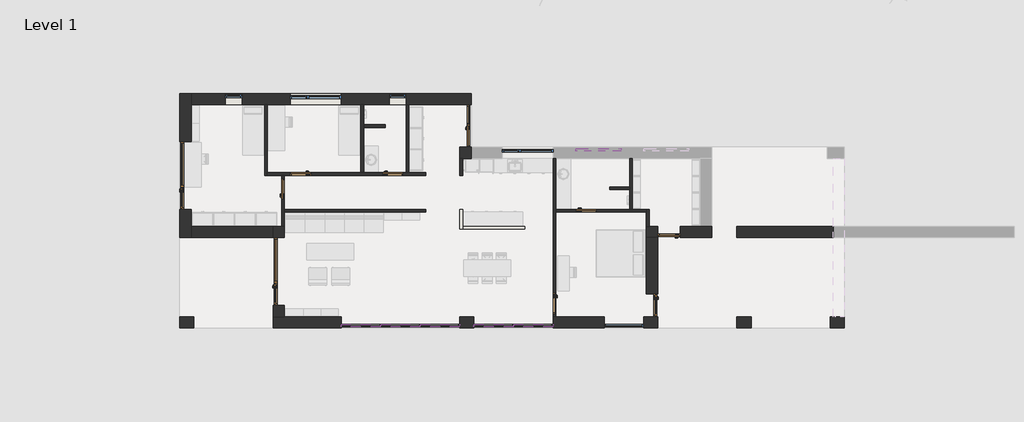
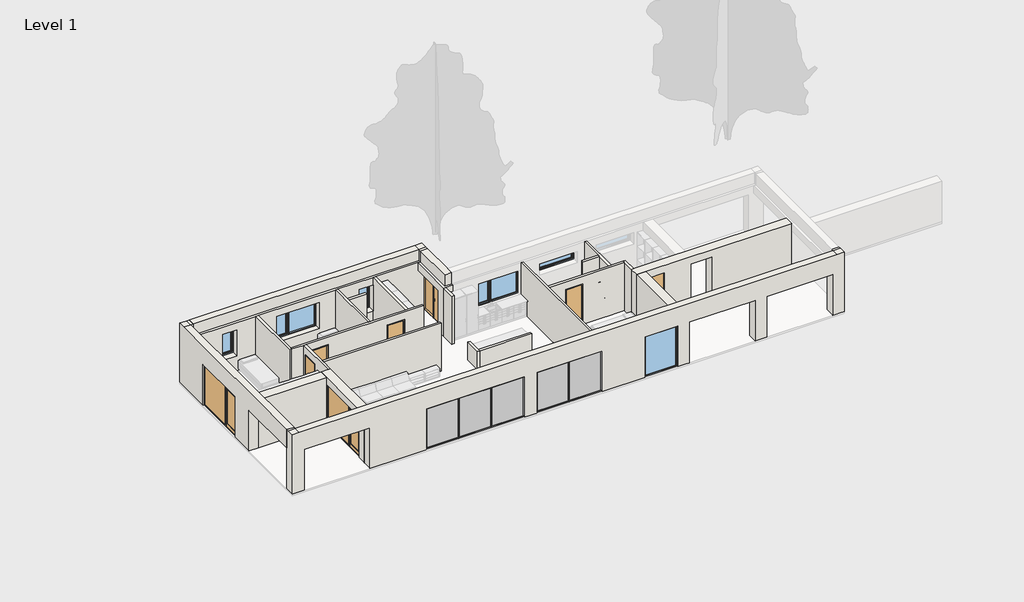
# One storey, part 1 of 2: 23 walls, 17 members, 10 doors, 6 windows, 5 plates.
"""IFC4 building model written with IfcOpenShell, lengths in millimetres."""

from ifc_helpers import new_model, si_unit, origin, origin_with_axes, place, context, project, spatial, polyline, outline, extrude, faceted_brep, transform, mapped, element, save
from components import door_1800x2200_mm_7a9b0269, ext_door_window_assembly_glass_2880x2200_mm_ebeafb6b, ext_single_flush_out_glass_960x2200_mm_f4f0ea2b, ext_single_flush1_960x2200_mm_7c25dc53, int_single_flush1_900x2200_mm_083ae047, int_single_flush1_900x2200_mm_924e3177, rectangular_mullion_exterior_50x115mm_b31c03e9, rectangular_mullion_exterior_50x115mm_eaa21abb, rectangular_mullion_exterior_50x115mm_593a1a29, system_panel_exterior_glass_22mm_baca3ab9, system_panel_exterior_glass_22mm_266c4f93, fixed_1680x2200_mm_e3bfc0e5, single_light_top_hinged_1920x600_dd11e4f9, single_light_720x1400_mm_50d61ae6, window_assembly_individual_2160x1400_mm_6f070fa8

model = new_model("IFC4")

# Units and contexts
model_context = context("Model", 3, world=origin())
ifc_project = project(units=[si_unit("LENGTHUNIT", "METRE", prefix="MILLI")], contexts=[model_context])

# Site, building, storey
site = spatial("IfcSite", under=ifc_project)
building = spatial("IfcBuilding", under=site)
storey = spatial("IfcBuildingStorey", under=building, Name="Level 1", Elevation=0.0)

# Doors
placement = place(None, origin())
door_1800x2200_mm_shape = door_1800x2200_mm_7a9b0269(model_context)
element("IfcDoor", 1, ObjectType="Ext. Door inw. Window Assembly : 1800x2200 mm", at=placement, inside=storey, context=model_context, shape_type="MappedRepresentation", body=[
    mapped(door_1800x2200_mm_shape, transform((12120.0, 8580.0, 0.0), x_axis=(0.0, -1.0, 0.0), y_axis=(1.0, 0.0, 0.0), z_axis=(0.0, 0.0, 1.0))),
])
ext_door_window_assembly_glass_2880x2200_mm_shape = ext_door_window_assembly_glass_2880x2200_mm_ebeafb6b(model_context)
element("IfcDoor", 2, ObjectType="Ext. Door Window Assembly - Glass : 2880x2200 mm", at=placement, inside=storey, context=model_context, shape_type="MappedRepresentation", body=[
    mapped(ext_door_window_assembly_glass_2880x2200_mm_shape, transform((4200.0, 2400.0, 0.0), x_axis=(0.0, -1.0, 0.0), y_axis=(1.0, 0.0, 0.0), z_axis=(0.0, 0.0, 1.0))),
])
element("IfcDoor", 3, ObjectType="Ext. Door Window Assembly - Glass : 2880x2200 mm", at=placement, inside=storey, context=model_context, shape_type="MappedRepresentation", body=[
    mapped(ext_door_window_assembly_glass_2880x2200_mm_shape, transform((240.0, 6480.0, 0.0), x_axis=(0.0, -1.0, 0.0), y_axis=(1.0, 0.0, 0.0), z_axis=(0.0, 0.0, 1.0))),
])
ext_single_flush_out_glass_960x2200_mm_shape = ext_single_flush_out_glass_960x2200_mm_f4f0ea2b(model_context)
element("IfcDoor", 4, ObjectType="Ext. Single-Flush out - Glass : 960x2200 mm", at=placement, inside=storey, context=model_context, shape_type="MappedRepresentation", body=[
    mapped(ext_single_flush_out_glass_960x2200_mm_shape, transform((20040.0, 960.0, 0.0), x_axis=(0.0, -1.0, 0.0), y_axis=(1.0, 0.0, 0.0), z_axis=(0.0, 0.0, 1.0))),
])
ext_single_flush1_960x2200_mm_shape = ext_single_flush1_960x2200_mm_7c25dc53(model_context)
element("IfcDoor", 5, ObjectType="Ext. Single-Flush1 : 960x2200 mm", at=placement, inside=storey, context=model_context, shape_type="MappedRepresentation", body=[
    mapped(ext_single_flush1_960x2200_mm_shape, transform((20760.0, 4080.0, 0.0), x_axis=(-1.0, 0.0, 0.0), y_axis=(0.0, -1.0, 0.0), z_axis=(0.0, 0.0, 1.0))),
])
int_single_flush1_900x2200_mm_shape = int_single_flush1_900x2200_mm_083ae047(model_context)
element("IfcDoor", 6, ObjectType="Int. Single-Flush1 : 900x2200 mm", at=placement, inside=storey, context=model_context, shape_type="MappedRepresentation", body=[
    mapped(int_single_flush1_900x2200_mm_shape, transform((4380.0, 5910.0, 0.0), x_axis=(0.0, 1.0, 0.0), y_axis=(-1.0, 0.0, 0.0), z_axis=(0.0, 0.0, 1.0))),
])
element("IfcDoor", 7, ObjectType="Int. Single-Flush1 : 900x2200 mm", at=placement, inside=storey, context=model_context, shape_type="MappedRepresentation", body=[
    mapped(int_single_flush1_900x2200_mm_shape, transform((9030.0, 6540.0, 0.0), x_axis=(1.0, 0.0, 0.0), y_axis=(0.0, 1.0, 0.0), z_axis=(0.0, 0.0, 1.0))),
])
element("IfcDoor", 8, ObjectType="Int. Single-Flush1 : 900x2200 mm", at=placement, inside=storey, context=model_context, shape_type="MappedRepresentation", body=[
    mapped(int_single_flush1_900x2200_mm_shape, transform((17250.0, 4980.0, 0.0), x_axis=(1.0, 0.0, 0.0), y_axis=(0.0, 1.0, 0.0), z_axis=(0.0, 0.0, 1.0))),
])
element("IfcDoor", 9, ObjectType="Int. Single-Flush1 : 900x2200 mm", at=placement, inside=storey, context=model_context, shape_type="MappedRepresentation", body=[
    mapped(int_single_flush1_900x2200_mm_shape, transform((15900.0, 1050.0, 0.0), x_axis=(0.0, -1.0, 0.0), y_axis=(1.0, 0.0, 0.0), z_axis=(0.0, 0.0, 1.0))),
])
int_single_flush1_900x2200_mm_2_shape = int_single_flush1_900x2200_mm_924e3177(model_context)
element("IfcDoor", 10, ObjectType="Int. Single-Flush1 : 900x2200 mm", at=placement, inside=storey, context=model_context, shape_type="MappedRepresentation", body=[
    mapped(int_single_flush1_900x2200_mm_2_shape, transform((5130.0, 6540.0, 0.0), x_axis=(-1.0, 0.0, 0.0), y_axis=(0.0, -1.0, 0.0), z_axis=(0.0, 0.0, 1.0))),
])

# Members
rectangular_mullion_exterior_50x115mm_shape = rectangular_mullion_exterior_50x115mm_b31c03e9(model_context)
element("IfcMember", 11, ObjectType="Rectangular Mullion : Exterior - 50x115mm", at=placement, inside=storey, context=model_context, shape_type="MappedRepresentation", body=[
    mapped(rectangular_mullion_exterior_50x115mm_shape, transform((6840.0, 50.0, 2200.0), x_axis=(0.0, 0.0, 1.0), y_axis=(0.0, 1.0, 0.0), z_axis=(-1.0, 0.0, 0.0))),
])
element("IfcMember", 12, ObjectType="Rectangular Mullion : Exterior - 50x115mm", at=placement, inside=storey, context=model_context, shape_type="MappedRepresentation", body=[
    mapped(rectangular_mullion_exterior_50x115mm_shape, transform((12480.0, 50.0, 2200.0), x_axis=(0.0, 0.0, 1.0), y_axis=(0.0, 1.0, 0.0), z_axis=(-1.0, 0.0, 0.0))),
])
element("IfcMember", 13, ObjectType="Rectangular Mullion : Exterior - 50x115mm", at=placement, inside=storey, context=model_context, shape_type="MappedRepresentation", body=[
    mapped(rectangular_mullion_exterior_50x115mm_shape, transform((11880.0, 50.0, 0.0), x_axis=(0.0, 0.0, -1.0), y_axis=(0.0, 1.0, 0.0), z_axis=(1.0, 0.0, 0.0))),
])
element("IfcMember", 14, ObjectType="Rectangular Mullion : Exterior - 50x115mm", at=placement, inside=storey, context=model_context, shape_type="MappedRepresentation", body=[
    mapped(rectangular_mullion_exterior_50x115mm_shape, transform((15840.0, 50.0, 0.0), x_axis=(0.0, 0.0, -1.0), y_axis=(0.0, 1.0, 0.0), z_axis=(1.0, 0.0, 0.0))),
])
rectangular_mullion_exterior_50x115mm_2_shape = rectangular_mullion_exterior_50x115mm_eaa21abb(model_context)
element("IfcMember", 15, ObjectType="Rectangular Mullion : Exterior - 50x115mm", at=placement, inside=storey, context=model_context, shape_type="MappedRepresentation", body=[
    mapped(rectangular_mullion_exterior_50x115mm_2_shape, transform((8520.0, 50.0, 50.0), x_axis=(-1.0, 0.0, 0.0), y_axis=(0.0, 1.0, 0.0), z_axis=(0.0, 0.0, -1.0))),
])
element("IfcMember", 16, ObjectType="Rectangular Mullion : Exterior - 50x115mm", at=placement, inside=storey, context=model_context, shape_type="MappedRepresentation", body=[
    mapped(rectangular_mullion_exterior_50x115mm_2_shape, transform((10200.0, 50.0, 50.0), x_axis=(-1.0, 0.0, 0.0), y_axis=(0.0, 1.0, 0.0), z_axis=(0.0, 0.0, -1.0))),
])
element("IfcMember", 17, ObjectType="Rectangular Mullion : Exterior - 50x115mm", at=placement, inside=storey, context=model_context, shape_type="MappedRepresentation", body=[
    mapped(rectangular_mullion_exterior_50x115mm_2_shape, transform((14160.0, 50.0, 50.0), x_axis=(-1.0, 0.0, 0.0), y_axis=(0.0, 1.0, 0.0), z_axis=(0.0, 0.0, -1.0))),
])
element("IfcMember", 18, ObjectType="Rectangular Mullion : Exterior - 50x115mm", at=placement, inside=storey, context=model_context, shape_type="MappedRepresentation", body=[
    mapped(rectangular_mullion_exterior_50x115mm_shape, transform((8520.0, 50.0, 0.0), x_axis=(0.0, 0.0, -1.0), y_axis=(0.0, 1.0, 0.0), z_axis=(1.0, 0.0, 0.0))),
])
element("IfcMember", 19, ObjectType="Rectangular Mullion : Exterior - 50x115mm", at=placement, inside=storey, context=model_context, shape_type="MappedRepresentation", body=[
    mapped(rectangular_mullion_exterior_50x115mm_shape, transform((14160.0, 50.0, 0.0), x_axis=(0.0, 0.0, -1.0), y_axis=(0.0, 1.0, 0.0), z_axis=(1.0, 0.0, 0.0))),
])
element("IfcMember", 20, ObjectType="Rectangular Mullion : Exterior - 50x115mm", at=placement, inside=storey, context=model_context, shape_type="MappedRepresentation", body=[
    mapped(rectangular_mullion_exterior_50x115mm_shape, transform((10200.0, 50.0, 0.0), x_axis=(0.0, 0.0, -1.0), y_axis=(0.0, 1.0, 0.0), z_axis=(1.0, 0.0, 0.0))),
])
element("IfcMember", 21, ObjectType="Rectangular Mullion : Exterior - 50x115mm", at=placement, inside=storey, context=model_context, shape_type="MappedRepresentation", body=[
    mapped(rectangular_mullion_exterior_50x115mm_shape, transform((8520.0, 50.0, 2200.0), x_axis=(0.0, 0.0, 1.0), y_axis=(0.0, 1.0, 0.0), z_axis=(-1.0, 0.0, 0.0))),
])
element("IfcMember", 22, ObjectType="Rectangular Mullion : Exterior - 50x115mm", at=placement, inside=storey, context=model_context, shape_type="MappedRepresentation", body=[
    mapped(rectangular_mullion_exterior_50x115mm_shape, transform((10200.0, 50.0, 2200.0), x_axis=(0.0, 0.0, 1.0), y_axis=(0.0, 1.0, 0.0), z_axis=(-1.0, 0.0, 0.0))),
])
element("IfcMember", 23, ObjectType="Rectangular Mullion : Exterior - 50x115mm", at=placement, inside=storey, context=model_context, shape_type="MappedRepresentation", body=[
    mapped(rectangular_mullion_exterior_50x115mm_shape, transform((14160.0, 50.0, 2200.0), x_axis=(0.0, 0.0, 1.0), y_axis=(0.0, 1.0, 0.0), z_axis=(-1.0, 0.0, 0.0))),
])
rectangular_mullion_exterior_50x115mm_3_shape = rectangular_mullion_exterior_50x115mm_593a1a29(model_context)
element("IfcMember", 24, ObjectType="Rectangular Mullion : Exterior - 50x115mm", at=placement, inside=storey, context=model_context, shape_type="MappedRepresentation", body=[
    mapped(rectangular_mullion_exterior_50x115mm_3_shape, transform((11880.0, 50.0, 2150.0), x_axis=(1.0, 0.0, 0.0), y_axis=(0.0, 1.0, 0.0), z_axis=(0.0, 0.0, 1.0))),
])
element("IfcMember", 25, ObjectType="Rectangular Mullion : Exterior - 50x115mm", at=placement, inside=storey, context=model_context, shape_type="MappedRepresentation", body=[
    mapped(rectangular_mullion_exterior_50x115mm_3_shape, transform((15840.0, 50.0, 2150.0), x_axis=(1.0, 0.0, 0.0), y_axis=(0.0, 1.0, 0.0), z_axis=(0.0, 0.0, 1.0))),
])
element("IfcMember", 26, ObjectType="Rectangular Mullion : Exterior - 50x115mm", at=placement, inside=storey, context=model_context, shape_type="MappedRepresentation", body=[
    mapped(rectangular_mullion_exterior_50x115mm_3_shape, transform((6840.0, 50.0, 50.0), x_axis=(-1.0, 0.0, 0.0), y_axis=(0.0, 1.0, 0.0), z_axis=(0.0, 0.0, -1.0))),
])
element("IfcMember", 27, ObjectType="Rectangular Mullion : Exterior - 50x115mm", at=placement, inside=storey, context=model_context, shape_type="MappedRepresentation", body=[
    mapped(rectangular_mullion_exterior_50x115mm_3_shape, transform((12480.0, 50.0, 50.0), x_axis=(-1.0, 0.0, 0.0), y_axis=(0.0, 1.0, 0.0), z_axis=(0.0, 0.0, -1.0))),
])

# Plates
system_panel_exterior_glass_22mm_shape = system_panel_exterior_glass_22mm_baca3ab9(model_context)
element("IfcPlate", 28, ObjectType="System Panel : Exterior - Glass 22mm", at=placement, inside=storey, context=model_context, shape_type="MappedRepresentation", body=[
    mapped(system_panel_exterior_glass_22mm_shape, transform((11027.5, 50.0, 50.0), x_axis=(-1.0, 0.0, 0.0), y_axis=(0.0, -1.0, 0.0), z_axis=(0.0, 0.0, 1.0))),
])
element("IfcPlate", 29, ObjectType="System Panel : Exterior - Glass 22mm", at=placement, inside=storey, context=model_context, shape_type="MappedRepresentation", body=[
    mapped(system_panel_exterior_glass_22mm_shape, transform((7692.5, 50.0, 50.0), x_axis=(-1.0, 0.0, 0.0), y_axis=(0.0, -1.0, 0.0), z_axis=(0.0, 0.0, 1.0))),
])
element("IfcPlate", 30, ObjectType="System Panel : Exterior - Glass 22mm", at=placement, inside=storey, context=model_context, shape_type="MappedRepresentation", body=[
    mapped(system_panel_exterior_glass_22mm_shape, transform((14987.5, 50.0, 50.0), x_axis=(-1.0, 0.0, 0.0), y_axis=(0.0, -1.0, 0.0), z_axis=(0.0, 0.0, 1.0))),
])
element("IfcPlate", 31, ObjectType="System Panel : Exterior - Glass 22mm", at=placement, inside=storey, context=model_context, shape_type="MappedRepresentation", body=[
    mapped(system_panel_exterior_glass_22mm_shape, transform((13332.5, 50.0, 50.0), x_axis=(-1.0, 0.0, 0.0), y_axis=(0.0, -1.0, 0.0), z_axis=(0.0, 0.0, 1.0))),
])
system_panel_exterior_glass_22mm_2_shape = system_panel_exterior_glass_22mm_266c4f93(model_context)
element("IfcPlate", 32, ObjectType="System Panel : Exterior - Glass 22mm", at=placement, inside=storey, context=model_context, shape_type="MappedRepresentation", body=[
    mapped(system_panel_exterior_glass_22mm_2_shape, transform((9360.0, 50.0, 50.0), x_axis=(-1.0, 0.0, 0.0), y_axis=(0.0, -1.0, 0.0), z_axis=(0.0, 0.0, 1.0))),
])

# Walls
element("IfcWall", 33, ObjectType="Generic - 120mm (Interior)", at=placement, inside=storey, context=model_context, shape_type="Brep", body=[
    faceted_brep([(3600.0, 9480.0, 0.0), (3600.0, 6480.0, 0.0), (3600.0, 6480.0, 2600.0), (3600.0, 9480.0, 2600.0), (3720.0, 9480.0, 0.0), (3720.0, 9480.0, 2600.0), (3720.0, 6600.0, 2600.0), (3720.0, 6480.0, 2600.0), (3720.0, 6480.0, 0.0), (3720.0, 6600.0, 0.0)], [[[0, 1, 2, 3]], [[4, 5, 6, 7, 8, 9]], [[1, 0, 4, 9, 8]], [[2, 1, 8, 7]], [[0, 3, 5, 4]], [[3, 2, 7, 6, 5]]]),
])
element("IfcWall", 34, ObjectType="Generic - 120mm (Interior)", at=placement, inside=storey, context=model_context, shape_type="Brep", body=[
    faceted_brep([(10440.0, 6480.0, 0.0), (10440.0, 6480.0, 2600.0), (4440.0, 6480.0, 2600.0), (4320.0, 6480.0, 2600.0), (3720.0, 6480.0, 2600.0), (3720.0, 6480.0, 0.0), (4320.0, 6480.0, 0.0), (4440.0, 6480.0, 0.0), (4680.0, 6480.0, 0.0), (4680.0, 6480.0, 2200.0), (5580.0, 6480.0, 2200.0), (5580.0, 6480.0, 0.0), (8580.0, 6480.0, 0.0), (8580.0, 6480.0, 2200.0), (9480.0, 6480.0, 2200.0), (9480.0, 6480.0, 0.0), (10440.0, 6600.0, 2600.0), (10440.0, 6600.0, 0.0), (9720.0, 6600.0, 0.0), (9600.0, 6600.0, 0.0), (9480.0, 6600.0, 0.0), (9480.0, 6600.0, 2200.0), (8580.0, 6600.0, 2200.0), (8580.0, 6600.0, 0.0), (7800.0, 6600.0, 0.0), (7680.0, 6600.0, 0.0), (5580.0, 6600.0, 0.0), (5580.0, 6600.0, 2200.0), (4680.0, 6600.0, 2200.0), (4680.0, 6600.0, 0.0), (3720.0, 6600.0, 0.0), (3720.0, 6600.0, 2600.0), (7680.0, 6600.0, 2600.0), (7800.0, 6600.0, 2600.0), (9600.0, 6600.0, 2600.0), (9720.0, 6600.0, 2600.0)], [[[0, 1, 2, 3, 4, 5, 6, 7, 8, 9, 10, 11, 12, 13, 14, 15]], [[16, 17, 18, 19, 20, 21, 22, 23, 24, 25, 26, 27, 28, 29, 30, 31, 32, 33, 34, 35]], [[17, 0, 15, 20, 19, 18]], [[5, 30, 29, 8, 7, 6]], [[23, 12, 11, 26, 25, 24]], [[1, 0, 17, 16]], [[5, 4, 31, 30]], [[14, 21, 20, 15]], [[21, 14, 13, 22]], [[22, 13, 12, 23]], [[28, 9, 8, 29]], [[9, 28, 27, 10]], [[10, 27, 26, 11]], [[4, 3, 2, 1, 16, 35, 34, 33, 32, 31]]]),
])
element("IfcWall", 35, ObjectType="Generic - 120mm (Interior)", at=placement, inside=storey, context=model_context, shape_type="Brep", body=[
    faceted_brep([(4440.0, 6480.0, 0.0), (4440.0, 6480.0, 2600.0), (4440.0, 5040.0, 2600.0), (4440.0, 4920.0, 2600.0), (4440.0, 4320.0, 2600.0), (4440.0, 4320.0, 0.0), (4440.0, 4920.0, 0.0), (4440.0, 5040.0, 0.0), (4440.0, 5460.0, 0.0), (4440.0, 5460.0, 2200.0), (4440.0, 6360.0, 2200.0), (4440.0, 6360.0, 0.0), (4320.0, 6480.0, 2600.0), (4320.0, 6480.0, 0.0), (4320.0, 6360.0, 0.0), (4320.0, 6360.0, 2200.0), (4320.0, 5460.0, 2200.0), (4320.0, 5460.0, 0.0), (4320.0, 4320.0, 0.0), (4320.0, 4320.0, 2600.0)], [[[0, 1, 2, 3, 4, 5, 6, 7, 8, 9, 10, 11]], [[12, 13, 14, 15, 16, 17, 18, 19]], [[13, 0, 11, 14]], [[5, 18, 17, 8, 7, 6]], [[1, 0, 13, 12]], [[5, 4, 19, 18]], [[10, 15, 14, 11]], [[15, 10, 9, 16]], [[16, 9, 8, 17]], [[4, 3, 2, 1, 12, 19]]]),
])
element("IfcWall", 36, ObjectType="Generic - 120mm (Interior)", at=placement, inside=storey, context=model_context, shape_type="Brep", body=[
    faceted_brep([(7800.0, 6600.0, 0.0), (7800.0, 8520.0, 0.0), (7800.0, 8640.0, 0.0), (7800.0, 9480.0, 0.0), (7800.0, 9480.0, 2600.0), (7800.0, 8640.0, 2600.0), (7800.0, 8520.0, 2600.0), (7800.0, 6600.0, 2600.0), (7680.0, 6600.0, 0.0), (7680.0, 6600.0, 2600.0), (7680.0, 9480.0, 2600.0), (7680.0, 9480.0, 0.0)], [[[0, 1, 2, 3, 4, 5, 6, 7]], [[8, 9, 10, 11]], [[3, 2, 1, 0, 8, 11]], [[0, 7, 9, 8]], [[4, 3, 11, 10]], [[7, 6, 5, 4, 10, 9]]]),
])
element("IfcWall", 37, ObjectType="Generic - 120mm (Interior)", at=placement, inside=storey, context=model_context, shape_type="Brep", body=[
    faceted_brep([(9720.0, 6600.0, 0.0), (9720.0, 9480.0, 0.0), (9720.0, 9480.0, 2600.0), (9720.0, 6600.0, 2600.0), (9600.0, 6600.0, 0.0), (9600.0, 6600.0, 2600.0), (9600.0, 9480.0, 2600.0), (9600.0, 9480.0, 2200.0), (9600.0, 9480.0, 800.0), (9600.0, 9480.0, 0.0)], [[[0, 1, 2, 3]], [[4, 5, 6, 7, 8, 9]], [[1, 0, 4, 9]], [[0, 3, 5, 4]], [[2, 1, 9, 8, 7, 6]], [[3, 2, 6, 5]]]),
])
element("IfcWall", 38, ObjectType="Generic - 120mm (Interior)", at=placement, inside=storey, context=model_context, shape_type="Brep", body=[
    faceted_brep([(15960.0, 7200.0, 0.0), (15960.0, 7200.0, 2600.0), (15960.0, 5040.0, 2600.0), (15960.0, 4920.0, 2600.0), (15960.0, 480.0, 2600.0), (15960.0, 480.0, 0.0), (15960.0, 600.0, 0.0), (15960.0, 600.0, 2200.0), (15960.0, 1500.0, 2200.0), (15960.0, 1500.0, 0.0), (15960.0, 4920.0, 0.0), (15960.0, 5040.0, 0.0), (15840.0, 7200.0, 2600.0), (15840.0, 7200.0, 2200.0), (15840.0, 7200.0, 800.0), (15840.0, 7200.0, 0.0), (15840.0, 1500.0, 0.0), (15840.0, 1500.0, 2200.0), (15840.0, 600.0, 2200.0), (15840.0, 600.0, 0.0), (15840.0, 480.0, 0.0), (15840.0, 480.0, 2200.0), (15840.0, 480.0, 2600.0)], [[[0, 1, 2, 3, 4, 5, 6, 7, 8, 9, 10, 11]], [[12, 13, 14, 15, 16, 17, 18, 19, 20, 21, 22]], [[5, 20, 19, 6]], [[15, 0, 11, 10, 9, 16]], [[1, 0, 15, 14, 13, 12]], [[5, 4, 22, 21, 20]], [[18, 7, 6, 19]], [[7, 18, 17, 8]], [[8, 17, 16, 9]], [[4, 3, 2, 1, 12, 22]]]),
])
element("IfcWall", 39, ObjectType="Generic - 120mm (Interior)", at=placement, inside=storey, context=model_context, shape_type="Brep", body=[
    faceted_brep([(19920.0, 4320.0, 0.0), (19920.0, 5040.0, 0.0), (19920.0, 5040.0, 2600.0), (19920.0, 4320.0, 2600.0), (19800.0, 4320.0, 0.0), (19800.0, 4320.0, 2600.0), (19800.0, 4920.0, 2600.0), (19800.0, 5040.0, 2600.0), (19800.0, 5040.0, 0.0), (19800.0, 4920.0, 0.0)], [[[0, 1, 2, 3]], [[4, 5, 6, 7, 8, 9]], [[1, 0, 4, 9, 8]], [[2, 1, 8, 7]], [[0, 3, 5, 4]], [[3, 2, 7, 6, 5]]]),
])
element("IfcWall", 40, ObjectType="Generic - 120mm (Interior)", at=placement, inside=storey, context=model_context, shape_type="Brep", body=[
    faceted_brep([(19800.0, 5040.0, 2600.0), (19800.0, 5040.0, 0.0), (19200.0, 5040.0, 0.0), (19080.0, 5040.0, 0.0), (17700.0, 5040.0, 0.0), (17700.0, 5040.0, 2200.0), (16800.0, 5040.0, 2200.0), (16800.0, 5040.0, 0.0), (15960.0, 5040.0, 0.0), (15960.0, 5040.0, 2600.0), (19080.0, 5040.0, 2600.0), (19200.0, 5040.0, 2600.0), (19800.0, 4920.0, 0.0), (19800.0, 4920.0, 2600.0), (15960.0, 4920.0, 2600.0), (15960.0, 4920.0, 0.0), (16800.0, 4920.0, 0.0), (16800.0, 4920.0, 2200.0), (17700.0, 4920.0, 2200.0), (17700.0, 4920.0, 0.0)], [[[0, 1, 2, 3, 4, 5, 6, 7, 8, 9, 10, 11]], [[12, 13, 14, 15, 16, 17, 18, 19]], [[1, 12, 19, 4, 3, 2]], [[15, 8, 7, 16]], [[1, 0, 13, 12]], [[9, 8, 15, 14]], [[18, 5, 4, 19]], [[5, 18, 17, 6]], [[6, 17, 16, 7]], [[0, 11, 10, 9, 14, 13]]]),
])
element("IfcWall", 41, ObjectType="Generic - 120mm (Interior)", at=placement, inside=storey, context=model_context, shape_type="Brep", body=[
    faceted_brep([(19200.0, 5040.0, 0.0), (19200.0, 7200.0, 0.0), (19200.0, 7200.0, 2600.0), (19200.0, 5040.0, 2600.0), (19080.0, 5040.0, 0.0), (19080.0, 5040.0, 2600.0), (19080.0, 5880.0, 2600.0), (19080.0, 6000.0, 2600.0), (19080.0, 7200.0, 2600.0), (19080.0, 7200.0, 0.0), (19080.0, 6000.0, 0.0), (19080.0, 5880.0, 0.0)], [[[0, 1, 2, 3]], [[4, 5, 6, 7, 8, 9, 10, 11]], [[1, 0, 4, 11, 10, 9]], [[0, 3, 5, 4]], [[2, 1, 9, 8]], [[3, 2, 8, 7, 6, 5]]]),
])
element("IfcWall", 42, ObjectType="Generic - 120mm (Interior)", at=placement, inside=storey, context=model_context, shape_type="SweptSolid", body=[
    extrude(outline(polyline([(18240.0, 6000.0), (19080.0, 6000.0), (19080.0, 5880.0), (18240.0, 5880.0), (18240.0, 6000.0)])), origin_with_axes(), (0.0, 0.0, 1.0), 2600.0),
])
element("IfcWall", 43, ObjectType="Generic - 120mm (Interior)", at=placement, inside=storey, context=model_context, shape_type="SweptSolid", body=[
    extrude(outline(polyline([(8720.0, 8520.0), (7800.0, 8520.0), (7800.0, 8640.0), (8720.0, 8640.0), (8720.0, 8520.0)])), origin_with_axes(), (0.0, 0.0, 1.0), 2600.0),
])
element("IfcWall", 44, ObjectType="Generic - 120mm (Interior)", at=placement, inside=storey, context=model_context, shape_type="SweptSolid", body=[
    extrude(outline(polyline([(10440.0, 4920.0), (4440.0, 4920.0), (4440.0, 5040.0), (10440.0, 5040.0), (10440.0, 4920.0)])), origin_with_axes(), (0.0, 0.0, 1.0), 2600.0),
])
element("IfcWall", 45, ObjectType="Generic - 120mm (Interior)", at=placement, inside=storey, context=model_context, shape_type="Brep", body=[
    faceted_brep([(11880.0, 5040.0, 0.0), (11880.0, 4200.0, 0.0), (11880.0, 4200.0, 1000.0), (11880.0, 5040.0, 1000.0), (12000.0, 5040.0, 0.0), (12000.0, 5040.0, 1000.0), (12000.0, 4320.0, 1000.0), (12000.0, 4200.0, 1000.0), (12000.0, 4200.0, 0.0), (12000.0, 4320.0, 0.0)], [[[0, 1, 2, 3]], [[4, 5, 6, 7, 8, 9]], [[1, 0, 4, 9, 8]], [[3, 2, 7, 6, 5]], [[0, 3, 5, 4]], [[2, 1, 8, 7]]]),
])
element("IfcWall", 46, ObjectType="Generic - 120mm (Interior)", at=placement, inside=storey, context=model_context, shape_type="SweptSolid", body=[
    extrude(outline(polyline([(14640.0, 4200.0), (12000.0, 4200.0), (12000.0, 4320.0), (14640.0, 4320.0), (14640.0, 4200.0)])), origin_with_axes(), (0.0, 0.0, 1.0), 1000.0),
])
element("IfcWall", 47, ObjectType="Generic - 120mm (Interior)", at=placement, inside=storey, context=model_context, shape_type="SweptSolid", body=[
    extrude(outline(polyline([(11880.0, 6480.0), (11880.0, 7200.0), (12000.0, 7200.0), (12000.0, 6480.0), (11880.0, 6480.0)])), origin_with_axes(), (0.0, 0.0, 1.0), 2600.0),
])
element("IfcWall", 48, ObjectType="Generic - 480mm (Exterior)", at=placement, inside=storey, context=model_context, shape_type="Brep", body=[
    faceted_brep([(480.0, 9960.0, 0.0), (480.0, 9960.0, 3200.0), (480.0, 9600.0, 3200.0), (480.0, 9600.0, 2600.0), (480.0, 9480.0, 2600.0), (480.0, 4320.0, 2600.0), (480.0, 3840.0, 2600.0), (480.0, 480.0, 2600.0), (480.0, 480.0, 2200.0), (480.0, 3840.0, 2200.0), (480.0, 3840.0, 0.0), (480.0, 4320.0, 0.0), (480.0, 5040.0, 0.0), (480.0, 5040.0, 2212.0), (480.0, 7920.0, 2212.0), (480.0, 7920.0, 0.0), (480.0, 9480.0, 0.0), (0.0, 9960.0, 3200.0), (0.0, 9960.0, 0.0), (0.0, 7920.0, 0.0), (0.0, 7920.0, 2212.0), (0.0, 5040.0, 2212.0), (0.0, 5040.0, 0.0), (0.0, 3840.0, 0.0), (0.0, 3840.0, 2200.0), (0.0, 480.0, 2200.0), (0.0, 480.0, 3200.0), (0.0, 9600.0, 3200.0), (360.0, 9960.0, 3200.0), (360.0, 480.0, 2600.0), (360.0, 480.0, 3200.0), (360.0, 9600.0, 3200.0), (360.0, 9600.0, 2600.0)], [[[0, 1, 2, 3, 4, 5, 6, 7, 8, 9, 10, 11, 12, 13, 14, 15, 16]], [[17, 18, 19, 20, 21, 22, 23, 24, 25, 26, 27]], [[1, 0, 18, 17, 28]], [[21, 13, 12, 22]], [[13, 21, 20, 14]], [[14, 20, 19, 15]], [[18, 0, 16, 15, 19]], [[10, 23, 22, 12, 11]], [[9, 8, 25, 24]], [[10, 9, 24, 23]], [[8, 7, 29, 30, 26, 25]], [[3, 2, 31, 32]], [[27, 26, 30, 31]], [[31, 30, 29, 32]], [[2, 1, 28, 31]], [[17, 27, 31, 28]], [[3, 32, 29, 7, 6, 5, 4]]]),
])
element("IfcWall", 49, ObjectType="Generic - 480mm (Exterior)", at=placement, inside=storey, context=model_context, shape_type="Brep", body=[
    faceted_brep([(480.0, 9480.0, 0.0), (3600.0, 9480.0, 0.0), (3720.0, 9480.0, 0.0), (7680.0, 9480.0, 0.0), (7800.0, 9480.0, 0.0), (9600.0, 9480.0, 0.0), (9720.0, 9480.0, 0.0), (12360.0, 9480.0, 0.0), (12360.0, 9480.0, 2200.0), (12360.0, 9480.0, 3200.0), (12000.0, 9480.0, 3200.0), (12000.0, 9480.0, 2600.0), (11880.0, 9480.0, 2600.0), (9720.0, 9480.0, 2600.0), (9600.0, 9480.0, 2600.0), (7800.0, 9480.0, 2600.0), (7680.0, 9480.0, 2600.0), (3720.0, 9480.0, 2600.0), (3600.0, 9480.0, 2600.0), (480.0, 9480.0, 2600.0), (8880.0, 9480.0, 800.0), (8880.0, 9480.0, 2200.0), (9600.0, 9480.0, 2200.0), (9600.0, 9480.0, 800.0), (6840.0, 9480.0, 2200.0), (6840.0, 9480.0, 800.0), (4680.0, 9480.0, 800.0), (4680.0, 9480.0, 2200.0), (1920.0, 9480.0, 800.0), (1920.0, 9480.0, 2200.0), (2640.0, 9480.0, 2200.0), (2640.0, 9480.0, 800.0), (12360.0, 9960.0, 0.0), (480.0, 9960.0, 0.0), (480.0, 9960.0, 3200.0), (12000.0, 9960.0, 3200.0), (12360.0, 9960.0, 3200.0), (8880.0, 9960.0, 2200.0), (8880.0, 9960.0, 800.0), (9600.0, 9960.0, 800.0), (9600.0, 9960.0, 2200.0), (6840.0, 9960.0, 800.0), (6840.0, 9960.0, 2200.0), (4680.0, 9960.0, 2200.0), (4680.0, 9960.0, 800.0), (1920.0, 9960.0, 2200.0), (1920.0, 9960.0, 800.0), (2640.0, 9960.0, 800.0), (2640.0, 9960.0, 2200.0), (480.0, 9600.0, 2600.0), (480.0, 9600.0, 3200.0), (12360.0, 9600.0, 3200.0), (12000.0, 9600.0, 2600.0), (12000.0, 9600.0, 3200.0)], [[[0, 1, 2, 3, 4, 5, 6, 7, 8, 9, 10, 11, 12, 13, 14, 15, 16, 17, 18, 19], [20, 21, 22, 23], [24, 25, 26, 27], [28, 29, 30, 31]], [[32, 33, 34, 35, 36], [37, 38, 39, 40], [41, 42, 43, 44], [45, 46, 47, 48]], [[7, 6, 5, 4, 3, 2, 1, 0, 33, 32]], [[0, 19, 49, 50, 34, 33]], [[9, 8, 7, 32, 36, 51]], [[20, 38, 37, 21]], [[39, 23, 22, 40]], [[38, 20, 23, 39]], [[41, 25, 24, 42]], [[43, 27, 26, 44]], [[25, 41, 44, 26]], [[28, 46, 45, 29]], [[47, 31, 30, 48]], [[46, 28, 31, 47]], [[40, 22, 21, 37]], [[27, 43, 42, 24]], [[48, 30, 29, 45]], [[50, 49, 52, 53]], [[9, 51, 53, 10]], [[10, 53, 52, 11]], [[34, 50, 53, 35]], [[51, 36, 35, 53]], [[19, 18, 17, 16, 15, 14, 13, 12, 11, 52, 49]]]),
])
element("IfcWall", 50, ObjectType="Generic - 480mm (Exterior)", at=placement, inside=storey, context=model_context, shape_type="Brep", body=[
    faceted_brep([(11880.0, 7200.0, 0.0), (11880.0, 7200.0, 2600.0), (11880.0, 9480.0, 2600.0), (11880.0, 9480.0, 2200.0), (11880.0, 7680.0, 2200.0), (11880.0, 7680.0, 0.0), (12360.0, 7200.0, 2600.0), (12360.0, 7200.0, 0.0), (12360.0, 7680.0, 0.0), (12360.0, 7680.0, 2200.0), (12360.0, 9480.0, 2200.0), (12360.0, 9480.0, 3200.0), (12360.0, 7680.0, 3200.0), (12360.0, 7320.0, 3200.0), (12360.0, 7320.0, 2600.0), (12000.0, 9480.0, 3200.0), (12000.0, 9480.0, 2600.0), (12000.0, 7200.0, 2600.0), (12000.0, 7320.0, 2600.0), (12000.0, 7320.0, 3200.0)], [[[0, 1, 2, 3, 4, 5]], [[6, 7, 8, 9, 10, 11, 12, 13, 14]], [[7, 0, 5, 8]], [[15, 11, 10, 3, 2, 16]], [[4, 9, 8, 5]], [[9, 4, 3, 10]], [[1, 0, 7, 6, 17]], [[15, 16, 18, 19]], [[11, 15, 19, 13, 12]], [[13, 19, 18, 14]], [[16, 2, 1, 17, 6, 14, 18]]]),
])
element("IfcWall", 51, ObjectType="Generic - 480mm (Exterior)", at=placement, inside=storey, context=model_context, shape_type="Brep", body=[
    faceted_brep([(28200.0, 480.0, 0.0), (27600.0, 480.0, 0.0), (27600.0, 480.0, 2200.0), (24240.0, 480.0, 2200.0), (24240.0, 480.0, 0.0), (23640.0, 480.0, 0.0), (23640.0, 480.0, 2200.0), (20280.0, 480.0, 2200.0), (20280.0, 480.0, 0.0), (19680.0, 480.0, 0.0), (19680.0, 480.0, 2200.0), (18000.0, 480.0, 2200.0), (18000.0, 480.0, 0.0), (15960.0, 480.0, 0.0), (15840.0, 480.0, 0.0), (15840.0, 480.0, 2200.0), (12480.0, 480.0, 2200.0), (12480.0, 480.0, 0.0), (11880.0, 480.0, 0.0), (11880.0, 480.0, 2200.0), (6840.0, 480.0, 2200.0), (6840.0, 480.0, 0.0), (4440.0, 480.0, 0.0), (3960.0, 480.0, 0.0), (3960.0, 480.0, 2200.0), (600.0, 480.0, 2200.0), (600.0, 480.0, 0.0), (0.0, 480.0, 0.0), (0.0, 480.0, 2200.0), (0.0, 480.0, 3200.0), (360.0, 480.0, 3200.0), (360.0, 480.0, 2600.0), (480.0, 480.0, 2600.0), (3960.0, 480.0, 2600.0), (4440.0, 480.0, 2600.0), (15840.0, 480.0, 2600.0), (15960.0, 480.0, 2600.0), (19800.0, 480.0, 2600.0), (20280.0, 480.0, 2600.0), (27720.0, 480.0, 2600.0), (27840.0, 480.0, 2600.0), (27840.0, 480.0, 3200.0), (28200.0, 480.0, 3200.0), (28200.0, 480.0, 2200.0), (27600.0, 0.0, 0.0), (28200.0, 0.0, 0.0), (28200.0, 0.0, 3200.0), (27840.0, 0.0, 3200.0), (360.0, 0.0, 3200.0), (0.0, 0.0, 3200.0), (0.0, 0.0, 0.0), (600.0, 0.0, 0.0), (600.0, 0.0, 2200.0), (3960.0, 0.0, 2200.0), (3960.0, 0.0, 0.0), (6840.0, 0.0, 0.0), (6840.0, 0.0, 2200.0), (11880.0, 0.0, 2200.0), (11880.0, 0.0, 0.0), (12480.0, 0.0, 0.0), (12480.0, 0.0, 2200.0), (15840.0, 0.0, 2200.0), (15840.0, 0.0, 0.0), (18000.0, 0.0, 0.0), (18000.0, 0.0, 2200.0), (19680.0, 0.0, 2200.0), (19680.0, 0.0, 0.0), (20280.0, 0.0, 0.0), (20280.0, 0.0, 2200.0), (23640.0, 0.0, 2200.0), (23640.0, 0.0, 0.0), (24240.0, 0.0, 0.0), (24240.0, 0.0, 2200.0), (27600.0, 0.0, 2200.0), (28200.0, 360.0, 3200.0), (0.0, 360.0, 3200.0), (27840.0, 360.0, 2600.0), (27840.0, 360.0, 3200.0), (360.0, 360.0, 2600.0), (360.0, 360.0, 3200.0)], [[[0, 1, 2, 3, 4, 5, 6, 7, 8, 9, 10, 11, 12, 13, 14, 15, 16, 17, 18, 19, 20, 21, 22, 23, 24, 25, 26, 27, 28, 29, 30, 31, 32, 33, 34, 35, 36, 37, 38, 39, 40, 41, 42, 43]], [[44, 45, 46, 47, 48, 49, 50, 51, 52, 53, 54, 55, 56, 57, 58, 59, 60, 61, 62, 63, 64, 65, 66, 67, 68, 69, 70, 71, 72, 73]], [[65, 10, 9, 66]], [[10, 65, 64, 11]], [[11, 64, 63, 12]], [[57, 19, 18, 58]], [[19, 57, 56, 20]], [[20, 56, 55, 21]], [[61, 15, 14, 62]], [[15, 61, 60, 16]], [[16, 60, 59, 17]], [[1, 0, 45, 44]], [[2, 1, 44, 73]], [[3, 2, 73, 72]], [[4, 3, 72, 71]], [[5, 4, 71, 70]], [[6, 5, 70, 69]], [[7, 6, 69, 68]], [[9, 8, 67, 66]], [[12, 63, 62, 14, 13]], [[58, 18, 17, 59]], [[23, 22, 21, 55, 54]], [[25, 24, 53, 52]], [[26, 25, 52, 51]], [[27, 26, 51, 50]], [[24, 23, 54, 53]], [[8, 7, 68, 67]], [[0, 43, 42, 74, 46, 45]], [[29, 28, 27, 50, 49, 75]], [[41, 40, 76, 77]], [[77, 76, 78, 79]], [[42, 41, 77, 74]], [[47, 46, 74, 77]], [[29, 75, 79, 30]], [[30, 79, 78, 31]], [[77, 79, 48, 47]], [[75, 49, 48, 79]], [[76, 40, 39, 38, 37, 36, 35, 34, 33, 32, 31, 78]]]),
])
element("IfcWall", 52, ObjectType="Generic - 480mm (Exterior)", at=placement, inside=storey, context=model_context, shape_type="Brep", body=[
    faceted_brep([(4440.0, 4320.0, 0.0), (4440.0, 4320.0, 2600.0), (4440.0, 480.0, 2600.0), (4440.0, 480.0, 0.0), (4440.0, 960.0, 0.0), (4440.0, 960.0, 2212.0), (4440.0, 3840.0, 2212.0), (4440.0, 3840.0, 0.0), (3960.0, 4320.0, 2600.0), (3960.0, 4320.0, 0.0), (3960.0, 3840.0, 0.0), (3960.0, 3840.0, 2212.0), (3960.0, 960.0, 2212.0), (3960.0, 960.0, 0.0), (3960.0, 480.0, 0.0), (3960.0, 480.0, 2200.0), (3960.0, 480.0, 2600.0), (3960.0, 3840.0, 2600.0), (4320.0, 4320.0, 0.0), (4320.0, 4320.0, 2600.0)], [[[0, 1, 2, 3, 4, 5, 6, 7]], [[8, 9, 10, 11, 12, 13, 14, 15, 16, 17]], [[9, 18, 0, 7, 10]], [[3, 14, 13, 4]], [[1, 0, 18, 9, 8, 19]], [[12, 5, 4, 13]], [[5, 12, 11, 6]], [[6, 11, 10, 7]], [[14, 3, 2, 16, 15]], [[16, 2, 1, 19, 8, 17]]]),
])
element("IfcWall", 53, ObjectType="Generic - 480mm (Exterior)", at=placement, inside=storey, context=model_context, shape_type="Brep", body=[
    faceted_brep([(3960.0, 4320.0, 0.0), (480.0, 4320.0, 0.0), (480.0, 4320.0, 2600.0), (3960.0, 4320.0, 2600.0), (3960.0, 3840.0, 0.0), (3960.0, 3840.0, 2600.0), (480.0, 3840.0, 2600.0), (480.0, 3840.0, 2200.0), (480.0, 3840.0, 0.0)], [[[0, 1, 2, 3]], [[4, 5, 6, 7, 8]], [[1, 0, 4, 8]], [[0, 3, 5, 4]], [[1, 8, 7, 6, 2]], [[3, 2, 6, 5]]]),
])
element("IfcWall", 54, ObjectType="Generic - 480mm (Exterior)", at=placement, inside=storey, context=model_context, shape_type="Brep", body=[
    faceted_brep([(19800.0, 3840.0, 2600.0), (19800.0, 3840.0, 0.0), (19800.0, 1440.0, 0.0), (19800.0, 1440.0, 2212.0), (19800.0, 480.0, 2212.0), (19800.0, 480.0, 2600.0), (20280.0, 3840.0, 0.0), (20280.0, 3840.0, 2200.0), (20280.0, 3840.0, 2600.0), (20280.0, 480.0, 2600.0), (20280.0, 480.0, 2212.0), (20280.0, 1440.0, 2212.0), (20280.0, 1440.0, 0.0)], [[[0, 1, 2, 3, 4, 5]], [[6, 7, 8, 9, 10, 11, 12]], [[1, 6, 12, 2]], [[1, 0, 8, 7, 6]], [[3, 11, 10, 4]], [[11, 3, 2, 12]], [[9, 5, 4, 10]], [[0, 5, 9, 8]]]),
])
element("IfcWall", 55, ObjectType="Generic - 480mm (Exterior)", at=placement, inside=storey, context=model_context, shape_type="Brep", body=[
    faceted_brep([(19800.0, 4320.0, 0.0), (19800.0, 4320.0, 2600.0), (19920.0, 4320.0, 2600.0), (22080.0, 4320.0, 2600.0), (22560.0, 4320.0, 2600.0), (27720.0, 4320.0, 2600.0), (27720.0, 4320.0, 2200.0), (27720.0, 4320.0, 0.0), (23640.0, 4320.0, 0.0), (23640.0, 4320.0, 2200.0), (22560.0, 4320.0, 2200.0), (22560.0, 4320.0, 0.0), (22080.0, 4320.0, 0.0), (21240.0, 4320.0, 0.0), (21240.0, 4320.0, 2200.0), (20280.0, 4320.0, 2200.0), (20280.0, 4320.0, 0.0), (19920.0, 4320.0, 0.0), (19800.0, 3840.0, 2600.0), (19800.0, 3840.0, 0.0), (20280.0, 3840.0, 0.0), (20280.0, 3840.0, 2200.0), (21240.0, 3840.0, 2200.0), (21240.0, 3840.0, 0.0), (22560.0, 3840.0, 0.0), (22560.0, 3840.0, 2200.0), (23640.0, 3840.0, 2200.0), (23640.0, 3840.0, 0.0), (27720.0, 3840.0, 0.0), (27720.0, 3840.0, 2200.0), (27720.0, 3840.0, 2600.0), (20280.0, 3840.0, 2600.0)], [[[0, 1, 2, 3, 4, 5, 6, 7, 8, 9, 10, 11, 12, 13, 14, 15, 16, 17]], [[18, 19, 20, 21, 22, 23, 24, 25, 26, 27, 28, 29, 30, 31]], [[19, 0, 17, 16, 20]], [[7, 28, 27, 8]], [[11, 24, 23, 13, 12]], [[1, 0, 19, 18]], [[15, 21, 20, 16]], [[21, 15, 14, 22]], [[22, 14, 13, 23]], [[28, 7, 6, 5, 30, 29]], [[9, 26, 25, 10]], [[26, 9, 8, 27]], [[5, 4, 3, 2, 1, 18, 31, 30]], [[10, 25, 24, 11]]]),
])

# Windows
fixed_1680x2200_mm_shape = fixed_1680x2200_mm_e3bfc0e5(model_context)
element("IfcWindow", 56, ObjectType="Fixed : 1680x2200 mm", at=placement, inside=storey, context=model_context, shape_type="MappedRepresentation", body=[
    mapped(fixed_1680x2200_mm_shape, transform((18840.0, 240.0, -800.0), x_axis=(-1.0, 0.0, 0.0), y_axis=(0.0, -1.0, 0.0), z_axis=(0.0, 0.0, 1.0))),
])
single_light_top_hinged_1920x600_shape = single_light_top_hinged_1920x600_dd11e4f9(model_context)
element("IfcWindow", 57, ObjectType="Single-Light (Top Hinged) : 1920x600", at=placement, inside=storey, context=model_context, shape_type="MappedRepresentation", body=[
    mapped(single_light_top_hinged_1920x600_shape, transform((17760.0, 7440.0, 800.0), x_axis=(1.0, 0.0, 0.0), y_axis=(0.0, 1.0, 0.0), z_axis=(0.0, 0.0, 1.0))),
])
single_light_720x1400_mm_shape = single_light_720x1400_mm_50d61ae6(model_context)
element("IfcWindow", 58, ObjectType="Single-Light : 720x1400 mm", at=placement, inside=storey, context=model_context, shape_type="MappedRepresentation", body=[
    mapped(single_light_720x1400_mm_shape, transform((2280.0, 9720.0, 0.0), x_axis=(1.0, 0.0, 0.0), y_axis=(0.0, 1.0, 0.0), z_axis=(0.0, 0.0, 1.0))),
])
element("IfcWindow", 59, ObjectType="Single-Light : 720x1400 mm", at=placement, inside=storey, context=model_context, shape_type="MappedRepresentation", body=[
    mapped(single_light_720x1400_mm_shape, transform((9240.0, 9720.0, 0.0), x_axis=(1.0, 0.0, 0.0), y_axis=(0.0, 1.0, 0.0), z_axis=(0.0, 0.0, 1.0))),
])
window_assembly_individual_2160x1400_mm_shape = window_assembly_individual_2160x1400_mm_6f070fa8(model_context)
element("IfcWindow", 60, ObjectType="Window Assembly Individual : 2160x1400 mm", at=placement, inside=storey, context=model_context, shape_type="MappedRepresentation", body=[
    mapped(window_assembly_individual_2160x1400_mm_shape, transform((5760.0, 9720.0, 0.0), x_axis=(-1.0, 0.0, 0.0), y_axis=(0.0, -1.0, 0.0), z_axis=(0.0, 0.0, 1.0))),
])
element("IfcWindow", 61, ObjectType="Window Assembly Individual : 2160x1400 mm", at=placement, inside=storey, context=model_context, shape_type="MappedRepresentation", body=[
    mapped(window_assembly_individual_2160x1400_mm_shape, transform((14760.0, 7440.0, 0.0), x_axis=(-1.0, 0.0, 0.0), y_axis=(0.0, -1.0, 0.0), z_axis=(0.0, 0.0, 1.0))),
])

save(model, "model.ifc")
